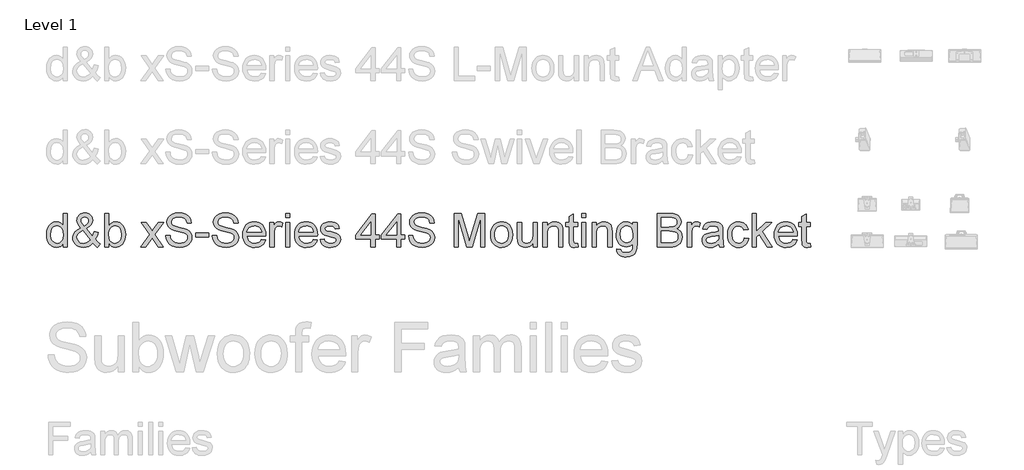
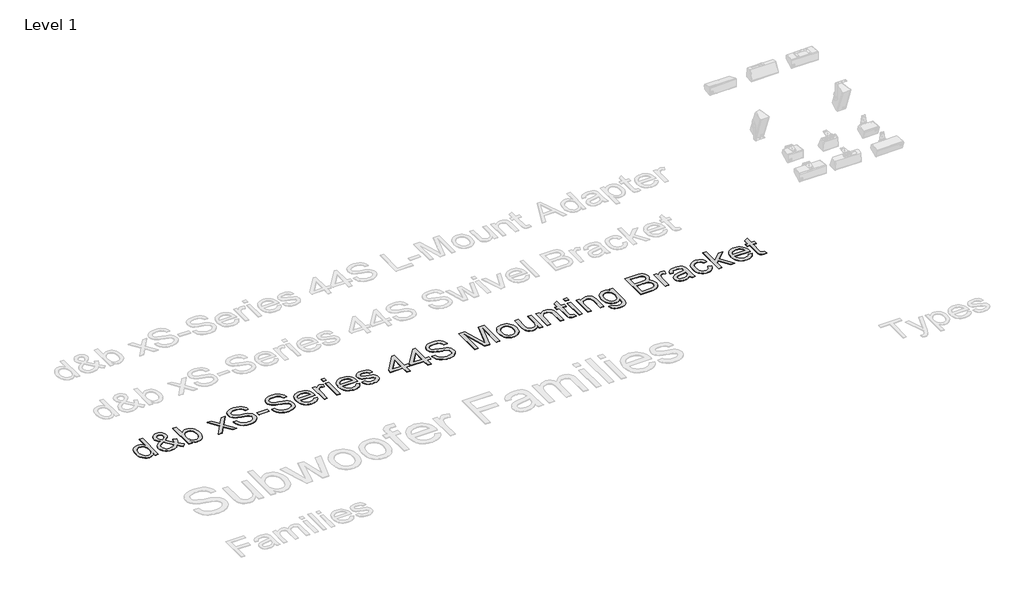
# One storey, part 25 of 55: 1 proxy.
"""IFC4 building model written with IfcOpenShell, lengths in millimetres."""

from ifc_helpers import new_model, si_unit, origin, origin_with_axes, place, context, project, spatial, polyline, outline, extrude, element, save

model = new_model("IFC4")

# Units and contexts
model_context = context("Model", 3, world=origin())
ifc_project = project(units=[si_unit("LENGTHUNIT", "METRE", prefix="MILLI")], contexts=[model_context])

# Site, building, storey
site = spatial("IfcSite", under=ifc_project)
building = spatial("IfcBuilding", under=site)
storey = spatial("IfcBuildingStorey", under=building, Name="Level 1", Elevation=0.0)

# Proxy
placement = place(None, origin())
element("IfcBuildingElementProxy", 1, Name="400mm Arial", ObjectType="400mm Arial", at=placement, inside=storey, context=model_context, shape_type="SweptSolid", body=[
    extrude(outline(polyline([(-20879.8211974, -10648.6945164), (-20879.8211974, -10601.3113154), (-20894.8491769, -10624.7883181), (-20913.0532043, -10641.5576057), (-20934.4332796, -10651.6191783), (-20958.9894028, -10654.9730358), (-20991.4611202, -10650.1169935), (-21021.1859854, -10635.5488665), (-21046.3491139, -10612.2864616), (-21065.1356211, -10581.3475858), (-21076.8342686, -10543.9830379), (-21080.7338177, -10501.4436165), (-21077.1408369, -10459.4314926), (-21066.3618944, -10421.4905962), (-21048.4092531, -10389.7791682), (-21023.2951755, -10366.4554497), (-20992.9203855, -10352.1080519), (-20959.1856065, -10347.325586), (-20934.6110892, -10350.7468885), (-20912.8815261, -10361.0107962), (-20894.4629008, -10376.7438829), (-20879.8211974, -10396.5727224), (-20879.8211974, -10246.8692758), (-20829.5930424, -10246.8692758), (-20829.5930424, -10648.6945164), (-20879.8211974, -10648.6945164)]), holes=[polyline([(-21030.5056627, -10501.2474128), (-21029.089317, -10525.6042665), (-21024.8402799, -10546.6808392), (-21017.7585515, -10564.4771307), (-21007.8441318, -10578.9931411), (-20983.1469871, -10598.3069458), (-20969.2717046, -10603.135397), (-20954.3786151, -10604.7448807), (-20939.415015, -10603.2089734), (-20925.6225058, -10598.6012514), (-20901.5507606, -10580.1703635), (-20892.0440767, -10566.2613584), (-20885.2535882, -10549.1088603), (-20879.8211974, -10505.0733855), (-20885.3516901, -10456.9298951), (-20892.2648059, -10438.3947739), (-20901.9431681, -10423.5507354), (-20913.6448812, -10412.1770504), (-20926.6280499, -10404.0529896), (-20940.8926743, -10399.1785532), (-20956.4387543, -10397.5537411), (-20971.6261493, -10399.1141738), (-20985.5014319, -10403.7954722), (-20998.064602, -10411.5976362), (-21009.3156597, -10422.5206658), (-21018.586286, -10436.8036843), (-21025.2081619, -10454.6858149), (-21030.5056627, -10501.2474128)])]), origin_with_axes(), (0.0, 0.0, 1.0), 5.0),
    extrude(outline(polyline([(-20523.809528, -10599.0549725), (-20549.3405384, -10623.5191252), (-20577.0788409, -10640.99352), (-20607.0734862, -10651.4781569), (-20639.3735254, -10654.9730358), (-20668.6814577, -10652.3855991), (-20694.8010793, -10644.623289), (-20717.7323904, -10631.6861055), (-20737.4753908, -10613.5740486), (-20750.308341, -10596.2038871), (-20759.4747341, -10577.8404442), (-20764.9745699, -10558.4837198), (-20766.8078485, -10538.1337141), (-20760.9094739, -10502.9396699), (-20743.2143499, -10471.3263438), (-20713.796053, -10443.3182613), (-20672.7281596, -10418.9399477), (-20694.6416638, -10390.5885086), (-20707.7995765, -10368.1231814), (-20714.3846642, -10348.9442668), (-20716.5796934, -10330.4520651), (-20714.8506481, -10312.8979626), (-20709.6635119, -10296.5333452), (-20701.018285, -10281.3582129), (-20688.9149674, -10267.3725657), (-20674.1935562, -10255.6555241), (-20657.6940487, -10247.2862088), (-20639.4164449, -10242.2646195), (-20619.3607448, -10240.5907564), (-20600.212487, -10242.1910431), (-20582.8913764, -10246.9919032), (-20567.397413, -10254.9933366), (-20553.7305969, -10266.1953433), (-20542.5715097, -10279.6414302), (-20534.6007332, -10294.3751041), (-20529.8182672, -10310.396365), (-20528.2241119, -10327.7052129), (-20532.9452642, -10355.68877), (-20547.108721, -10381.563137), (-20570.7144823, -10405.3283139), (-20603.7625482, -10426.9843007), (-20531.069066, -10517.5323224), (-20518.6837055, -10491.6579554), (-20509.3885538, -10461.9085647), (-20459.1603987, -10472.7978718), (-20474.6114425, -10519.3226815), (-20494.6732739, -10555.4977443), (-20466.1256311, -10588.8033276), (-20434.0463211, -10616.3209009), (-20471.7174374, -10654.9730358), (-20497.3465498, -10631.52669), (-20523.809528, -10599.0549725)]), holes=[polyline([(-20557.4584678, -10562.8553842), (-20647.1235727, -10450.9211558), (-20681.3733865, -10472.7733463), (-20702.305872, -10493.0068561), (-20713.0112381, -10512.3329235), (-20716.5796934, -10531.4627873), (-20711.6991256, -10555.1543878), (-20697.0574222, -10579.7289051), (-20686.2784798, -10590.6733944), (-20673.4639236, -10598.4908868), (-20658.6137537, -10603.1813823), (-20641.7279702, -10604.7448807), (-20619.0051256, -10601.8263502), (-20595.5710425, -10593.0707588), (-20574.1480476, -10579.6798541), (-20557.4584678, -10562.8553842)]), polyline([(-20629.1709314, -10395.2973981), (-20602.9041569, -10378.6323438), (-20587.8700461, -10364.1500559), (-20580.8067117, -10350.0601755), (-20578.452267, -10334.5723435), (-20581.5547385, -10317.0243723), (-20590.862153, -10303.0325938), (-20604.829406, -10293.8723321), (-20621.9113933, -10290.8189115), (-20639.3612626, -10293.8478066), (-20653.6473468, -10302.9344919), (-20663.1754905, -10316.3867102), (-20666.3515384, -10332.5122043), (-20662.0350563, -10350.9063041), (-20648.9875082, -10371.360543), (-20629.1709314, -10395.2973981)])]), origin_with_axes(), (0.0, 0.0, 1.0), 5.0),
    extrude(outline(polyline([(-20333.590011, -10648.6945164), (-20383.8181661, -10648.6945164), (-20383.8181661, -10246.8692758), (-20333.590011, -10246.8692758), (-20333.590011, -10395.8860093), (-20317.0721094, -10374.6408241), (-20298.4204923, -10359.4656918), (-20277.6351595, -10350.3606124), (-20254.7161112, -10347.325586), (-20228.8417442, -10350.0601755), (-20204.3898543, -10358.263944), (-20182.758393, -10371.4218567), (-20165.3453119, -10389.0188788), (-20151.6968898, -10410.883332), (-20141.3594058, -10436.8435381), (-20134.8478945, -10465.8203766), (-20132.6773907, -10496.734727), (-20134.9245365, -10532.4070178), (-20141.6659741, -10563.7873519), (-20152.9017034, -10590.8757295), (-20168.6317244, -10613.6721505), (-20187.5132678, -10631.7412878), (-20208.2035643, -10644.6478145), (-20230.702614, -10652.3917305), (-20255.0104168, -10654.9730358), (-20278.6836232, -10651.6437038), (-20299.671291, -10641.6557076), (-20317.9734203, -10625.0090473), (-20333.590011, -10601.7037229), (-20333.590011, -10648.6945164)]), holes=[polyline([(-20333.590011, -10499.0891717), (-20330.1564457, -10540.9786682), (-20319.8557498, -10569.3301073), (-20307.6849872, -10584.8240707), (-20293.5399244, -10595.8911874), (-20277.4205617, -10602.5314574), (-20259.3268989, -10604.7448807), (-20244.3050508, -10603.1139372), (-20230.3377977, -10598.2211067), (-20217.4251396, -10590.0663891), (-20205.5670767, -10578.6497845), (-20195.6526569, -10564.0019498), (-20188.5709285, -10546.1535416), (-20184.3218914, -10525.1045601), (-20182.9055458, -10500.8550053), (-20188.3379366, -10454.8942814), (-20195.1284251, -10437.1010555), (-20204.6351089, -10422.7659205), (-20216.0670419, -10411.735592), (-20228.6332778, -10403.8567859), (-20242.3338164, -10399.1295023), (-20257.1686579, -10397.5537411), (-20272.190506, -10399.1846846), (-20286.1577591, -10404.0775151), (-20299.0704171, -10412.2322327), (-20310.9284801, -10423.6488372), (-20320.8428999, -10438.1495192), (-20327.9246283, -10455.556469), (-20332.1736653, -10475.8696865), (-20333.590011, -10499.0891717)])]), origin_with_axes(), (0.0, 0.0, 1.0), 5.0),
    extrude(outline(polyline([(-19950.6003285, -10648.6945164), (-19843.2768878, -10500.2663941), (-19944.3218092, -10353.6041054), (-19884.0872638, -10353.6041054), (-19835.3306367, -10424.3355503), (-19812.4729021, -10457.5920827), (-19792.6563253, -10430.3197641), (-19737.1306695, -10353.6041054), (-19676.6999204, -10353.6041054), (-19782.8461387, -10500.364496), (-19680.623995, -10648.6945164), (-19740.9566422, -10648.6945164), (-19802.5646137, -10559.4218189), (-19813.7482263, -10543.0388074), (-19890.1695795, -10648.6945164), (-19950.6003285, -10648.6945164)])), origin_with_axes(), (0.0, 0.0, 1.0), 5.0),
    extrude(outline(polyline([(-19649.2313981, -10510.56709), (-19599.003243, -10510.56709), (-19593.2397584, -10538.4402825), (-19582.8164352, -10560.844296), (-19566.556051, -10578.6252591), (-19543.2813835, -10592.6293004), (-19514.8318425, -10601.7159856), (-19483.0468381, -10604.7448807), (-19455.063281, -10602.4517496), (-19430.5623402, -10595.5723563), (-19410.7089752, -10584.6830493), (-19396.6681457, -10570.3601769), (-19388.3172244, -10553.9158517), (-19385.533584, -10536.6621862), (-19387.6182486, -10519.849979), (-19393.8722425, -10505.3186402), (-19406.5764341, -10492.9210169), (-19428.0116917, -10482.5099565), (-19501.1466323, -10463.3310418), (-19549.1552327, -10450.639113), (-19579.8733793, -10438.5603208), (-19604.8770922, -10421.6622745), (-19622.5967416, -10401.1835101), (-19633.1549549, -10377.565486), (-19636.6743593, -10351.2496606), (-19632.3210891, -10321.8313637), (-19619.2612782, -10294.3996296), (-19597.8382834, -10271.1494875), (-19568.395461, -10254.2759667), (-19533.054264, -10244.012059), (-19493.9361452, -10240.5907564), (-19451.5561394, -10244.1714745), (-19414.4736342, -10254.9136288), (-19384.013005, -10272.59649), (-19361.4986269, -10296.999329), (-19347.249331, -10326.6015669), (-19341.5839483, -10359.8826247), (-19391.8121033, -10359.8826247), (-19401.0336787, -10329.9125049), (-19409.3968627, -10318.0544419), (-19420.2616443, -10308.2810436), (-19450.3053406, -10295.1844445), (-19491.9741079, -10290.8189115), (-19534.6238939, -10295.1353936), (-19550.9271976, -10300.5309962), (-19563.8827752, -10308.0848398), (-19580.805347, -10327.1411272), (-19586.4462043, -10349.7781326), (-19582.4485532, -10369.0796746), (-19570.4556002, -10384.6042948), (-19542.1041611, -10398.4857088), (-19488.4424407, -10412.6614283), (-19433.0639377, -10426.1259093), (-19399.5621507, -10437.8736077), (-19370.9286687, -10456.0960292), (-19350.9526764, -10478.5858819), (-19339.2172408, -10505.097911), (-19335.3054289, -10535.3868619), (-19339.805852, -10566.3502632), (-19353.3071212, -10595.4742545), (-19375.2574136, -10620.5392811), (-19405.1049061, -10639.3257883), (-19440.9979261, -10651.0612239), (-19481.0848008, -10654.9730358), (-19530.2951491, -10650.7546556), (-19570.7989567, -10638.099515), (-19603.0622077, -10616.958563), (-19627.5508858, -10587.2827487), (-19643.2717098, -10551.1322113), (-19649.2313981, -10510.56709)])), origin_with_axes(), (0.0, 0.0, 1.0), 5.0),
    extrude(outline(polyline([(-19291.3557932, -10529.4026481), (-19291.3557932, -10479.174493), (-19134.3928086, -10479.174493), (-19134.3928086, -10529.4026481), (-19291.3557932, -10529.4026481)])), origin_with_axes(), (0.0, 0.0, 1.0), 5.0),
    extrude(outline(polyline([(-19090.4431729, -10510.56709), (-19040.2150178, -10510.56709), (-19034.4515332, -10538.4402825), (-19024.02821, -10560.844296), (-19007.7678258, -10578.6252591), (-18984.4931583, -10592.6293004), (-18956.0436173, -10601.7159856), (-18924.2586129, -10604.7448807), (-18896.2750558, -10602.4517496), (-18871.774115, -10595.5723563), (-18851.9207499, -10584.6830493), (-18837.8799205, -10570.3601769), (-18829.5289992, -10553.9158517), (-18826.7453587, -10536.6621862), (-18828.8300234, -10519.849979), (-18835.0840173, -10505.3186402), (-18847.7882089, -10492.9210169), (-18869.2234665, -10482.5099565), (-18942.3584071, -10463.3310418), (-18990.3670075, -10450.639113), (-19021.0851541, -10438.5603208), (-19046.088867, -10421.6622745), (-19063.8085164, -10401.1835101), (-19074.3667297, -10377.565486), (-19077.8861341, -10351.2496606), (-19073.5328638, -10321.8313637), (-19060.473053, -10294.3996296), (-19039.0500582, -10271.1494875), (-19009.6072358, -10254.2759667), (-18974.2660388, -10244.012059), (-18935.14792, -10240.5907564), (-18892.7679141, -10244.1714745), (-18855.685409, -10254.9136288), (-18825.2247798, -10272.59649), (-18802.7104017, -10296.999329), (-18788.4611058, -10326.6015669), (-18782.7957231, -10359.8826247), (-18833.0238781, -10359.8826247), (-18842.2454535, -10329.9125049), (-18850.6086375, -10318.0544419), (-18861.4734191, -10308.2810436), (-18891.5171154, -10295.1844445), (-18933.1858827, -10290.8189115), (-18975.8356687, -10295.1353936), (-18992.1389724, -10300.5309962), (-19005.09455, -10308.0848398), (-19022.0171218, -10327.1411272), (-19027.657979, -10349.7781326), (-19023.660328, -10369.0796746), (-19011.667375, -10384.6042948), (-18983.3159359, -10398.4857088), (-18929.6542155, -10412.6614283), (-18874.2757125, -10426.1259093), (-18840.7739255, -10437.8736077), (-18812.1404435, -10456.0960292), (-18792.1644512, -10478.5858819), (-18780.4290156, -10505.097911), (-18776.5172037, -10535.3868619), (-18781.0176267, -10566.3502632), (-18794.518896, -10595.4742545), (-18816.4691883, -10620.5392811), (-18846.3166809, -10639.3257883), (-18882.2097009, -10651.0612239), (-18922.2965756, -10654.9730358), (-18971.5069238, -10650.7546556), (-19012.0107315, -10638.099515), (-19044.2739825, -10616.958563), (-19068.7626606, -10587.2827487), (-19084.4834846, -10551.1322113), (-19090.4431729, -10510.56709)])), origin_with_axes(), (0.0, 0.0, 1.0), 5.0),
    extrude(outline(polyline([(-18500.850962, -10560.795245), (-18451.6038255, -10567.0737644), (-18459.1546035, -10586.7983707), (-18469.3480004, -10604.180795), (-18482.1840164, -10619.2210372), (-18497.6626513, -10631.9190974), (-18515.6244897, -10642.0051955), (-18535.9101161, -10649.2095512), (-18583.4527326, -10654.9730358), (-18614.618469, -10652.4867667), (-18642.3874282, -10645.0279592), (-18666.7596104, -10632.5966135), (-18687.7350155, -10615.1927294), (-18704.602405, -10593.300685), (-18716.6505403, -10567.4048582), (-18723.8794215, -10537.5052491), (-18726.2890486, -10503.6018575), (-18723.8548961, -10468.5488348), (-18716.5524385, -10437.6528785), (-18704.3816758, -10410.9139888), (-18687.342608, -10388.3321657), (-18666.4223852, -10370.3917871), (-18642.6081574, -10357.5772309), (-18615.8999246, -10349.8884972), (-18586.2976867, -10347.325586), (-18557.6488763, -10349.8823658), (-18531.7407868, -10357.5527054), (-18508.5734182, -10370.3366048), (-18488.1467704, -10388.2340638), (-18471.472519, -10410.766836), (-18459.5623394, -10437.4566748), (-18452.4162316, -10468.3035801), (-18450.0341957, -10503.3075519), (-18450.3285013, -10516.8456094), (-18676.0608935, -10516.8456094), (-18673.1515601, -10536.8890467), (-18667.3666157, -10554.4431493), (-18658.7060604, -10569.507917), (-18647.1698942, -10582.0833498), (-18633.3957791, -10591.9977696), (-18618.0213774, -10599.079498), (-18582.4717139, -10604.7448807), (-18555.7389556, -10602.1206558), (-18533.2245775, -10594.2479811), (-18514.9285796, -10580.6363473), (-18500.850962, -10560.795245)]), holes=[polyline([(-18676.0608935, -10466.6174543), (-18500.2623508, -10466.6174543), (-18507.0559049, -10440.0808997), (-18520.3732332, -10421.0981887), (-18534.0707061, -10410.7974929), (-18549.65664, -10403.439853), (-18567.1310348, -10399.025269), (-18586.4938904, -10397.5537411), (-18620.3512967, -10402.2503679), (-18648.3471166, -10416.3402483), (-18667.8080741, -10438.3028034), (-18676.0608935, -10466.6174543)])]), origin_with_axes(), (0.0, 0.0, 1.0), 5.0),
    extrude(outline(polyline([(-18399.8060406, -10648.6945164), (-18399.8060406, -10353.6041054), (-18355.8564049, -10353.6041054), (-18355.8564049, -10397.2594355), (-18339.6205462, -10371.9491542), (-18324.6600117, -10357.0376707), (-18309.6504263, -10349.7536071), (-18293.2674148, -10347.325586), (-18268.2514391, -10351.2006097), (-18242.843056, -10362.8256807), (-18259.618475, -10407.8544369), (-18277.2768108, -10400.128915), (-18294.9351465, -10397.5537411), (-18309.9324692, -10400.0308132), (-18323.3356365, -10407.4620295), (-18334.1636299, -10419.2833042), (-18341.4354307, -10434.9305518), (-18347.5422718, -10462.9876853), (-18349.5778855, -10493.5954673), (-18349.5778855, -10648.6945164), (-18399.8060406, -10648.6945164)])), origin_with_axes(), (0.0, 0.0, 1.0), 5.0),
    extrude(outline(polyline([(-18211.4504591, -10297.0974309), (-18211.4504591, -10246.8692758), (-18161.222304, -10246.8692758), (-18161.222304, -10297.0974309), (-18211.4504591, -10297.0974309)])), origin_with_axes(), (0.0, 0.0, 1.0), 5.0),
    extrude(outline(polyline([(-18211.4504591, -10648.6945164), (-18211.4504591, -10353.6041054), (-18161.222304, -10353.6041054), (-18161.222304, -10648.6945164), (-18211.4504591, -10648.6945164)])), origin_with_axes(), (0.0, 0.0, 1.0), 5.0),
    extrude(outline(polyline([(-17879.2775429, -10560.795245), (-17830.0304065, -10567.0737644), (-17837.5811844, -10586.7983707), (-17847.7745814, -10604.180795), (-17860.6105973, -10619.2210372), (-17876.0892323, -10631.9190974), (-17894.0510707, -10642.0051955), (-17914.336697, -10649.2095512), (-17961.8793136, -10654.9730358), (-17993.0450499, -10652.4867667), (-18020.8140092, -10645.0279592), (-18045.1861914, -10632.5966135), (-18066.1615965, -10615.1927294), (-18083.0289859, -10593.300685), (-18095.0771213, -10567.4048582), (-18102.3060025, -10537.5052491), (-18104.7156295, -10503.6018575), (-18102.281477, -10468.5488348), (-18094.9790194, -10437.6528785), (-18082.8082567, -10410.9139888), (-18065.769189, -10388.3321657), (-18044.8489662, -10370.3917871), (-18021.0347384, -10357.5772309), (-17994.3265055, -10349.8884972), (-17964.7242676, -10347.325586), (-17936.0754573, -10349.8823658), (-17910.1673678, -10357.5527054), (-17886.9999991, -10370.3366048), (-17866.5733513, -10388.2340638), (-17849.8990999, -10410.766836), (-17837.9889203, -10437.4566748), (-17830.8428126, -10468.3035801), (-17828.4607766, -10503.3075519), (-17828.7550822, -10516.8456094), (-18054.4874745, -10516.8456094), (-18051.578141, -10536.8890467), (-18045.7931967, -10554.4431493), (-18037.1326413, -10569.507917), (-18025.5964751, -10582.0833498), (-18011.8223601, -10591.9977696), (-17996.4479584, -10599.079498), (-17960.8982949, -10604.7448807), (-17934.1655366, -10602.1206558), (-17911.6511585, -10594.2479811), (-17893.3551606, -10580.6363473), (-17879.2775429, -10560.795245)]), holes=[polyline([(-18054.4874745, -10466.6174543), (-17878.6889317, -10466.6174543), (-17885.4824859, -10440.0808997), (-17898.7998141, -10421.0981887), (-17912.4972871, -10410.7974929), (-17928.0832209, -10403.439853), (-17945.5576157, -10399.025269), (-17964.9204714, -10397.5537411), (-17998.7778777, -10402.2503679), (-18026.7736975, -10416.3402483), (-18046.234655, -10438.3028034), (-18054.4874745, -10466.6174543)])]), origin_with_axes(), (0.0, 0.0, 1.0), 5.0),
    extrude(outline(polyline([(-17797.0681797, -10560.795245), (-17746.8400246, -10554.5167257), (-17738.918299, -10576.0010342), (-17723.5898825, -10591.7954345), (-17700.7566734, -10601.5075192), (-17670.3205696, -10604.7448807), (-17640.2523479, -10601.7772993), (-17619.1113959, -10592.874555), (-17606.6034081, -10579.9741597), (-17602.4340788, -10565.0136253), (-17606.6279335, -10552.2113318), (-17619.2094978, -10542.4501962), (-17670.9091808, -10528.1273239), (-17746.545719, -10503.5528066), (-17765.6878455, -10491.2042343), (-17779.5569967, -10474.858011), (-17787.9814944, -10455.556469), (-17790.7896603, -10434.3419406), (-17788.5333174, -10414.880983), (-17781.7642887, -10396.9160789), (-17771.0957109, -10381.1584668), (-17757.1407205, -10368.3193852), (-17725.2085633, -10353.4569526), (-17704.3251287, -10348.8584276), (-17681.9946916, -10347.325586), (-17649.302245, -10349.7903953), (-17620.8772295, -10357.1848234), (-17598.0194949, -10368.785369), (-17582.0288908, -10383.8685308), (-17571.4338893, -10403.5502176), (-17564.7629625, -10428.946338), (-17614.9911176, -10435.2248574), (-17621.3309506, -10419.4181943), (-17633.8757267, -10407.5110804), (-17652.748073, -10400.0430759), (-17678.070617, -10397.5537411), (-17706.9125654, -10399.9327113), (-17726.140531, -10407.069622), (-17736.9562617, -10417.3703179), (-17740.5615053, -10429.2406436), (-17734.5772915, -10443.8578215), (-17715.8398352, -10454.9433323), (-17672.5769125, -10465.6364356), (-17598.8533607, -10489.2789852), (-17579.3801404, -10500.5852252), (-17564.6158097, -10516.0607944), (-17555.3083952, -10535.7547439), (-17552.2059237, -10559.7161245), (-17555.8479555, -10584.4868455), (-17566.7740507, -10607.7860386), (-17584.5672766, -10627.7865564), (-17608.8107, -10642.6612517), (-17638.0941069, -10651.8950898), (-17671.0072827, -10654.9730358), (-17698.040478, -10653.4892451), (-17721.6523707, -10649.037873), (-17741.8429609, -10641.6189194), (-17758.6122485, -10631.2323844), (-17772.3097214, -10617.9273189), (-17783.2848676, -10601.7527738), (-17791.5376871, -10582.7087492), (-17797.0681797, -10560.795245)])), origin_with_axes(), (0.0, 0.0, 1.0), 5.0),
    extrude(outline(polyline([(-17188.0517994, -10648.6945164), (-17188.0517994, -10554.5167257), (-17370.1288616, -10554.5167257), (-17370.1288616, -10504.2885706), (-17175.4947607, -10253.1477952), (-17137.8236444, -10253.1477952), (-17137.8236444, -10504.2885706), (-17087.5954893, -10504.2885706), (-17087.5954893, -10554.5167257), (-17137.8236444, -10554.5167257), (-17137.8236444, -10648.6945164), (-17188.0517994, -10648.6945164)]), holes=[polyline([(-17188.0517994, -10504.2885706), (-17188.0517994, -10349.0914196), (-17308.3246864, -10504.2885706), (-17188.0517994, -10504.2885706)])]), origin_with_axes(), (0.0, 0.0, 1.0), 5.0),
    extrude(outline(polyline([(-16880.4043496, -10648.6945164), (-16880.4043496, -10554.5167257), (-17062.4814117, -10554.5167257), (-17062.4814117, -10504.2885706), (-16867.8473108, -10253.1477952), (-16830.1761945, -10253.1477952), (-16830.1761945, -10504.2885706), (-16779.9480394, -10504.2885706), (-16779.9480394, -10554.5167257), (-16830.1761945, -10554.5167257), (-16830.1761945, -10648.6945164), (-16880.4043496, -10648.6945164)]), holes=[polyline([(-16880.4043496, -10504.2885706), (-16880.4043496, -10349.0914196), (-17000.6772366, -10504.2885706), (-16880.4043496, -10504.2885706)])]), origin_with_axes(), (0.0, 0.0, 1.0), 5.0),
    extrude(outline(polyline([(-16735.9984038, -10510.56709), (-16685.7702487, -10510.56709), (-16680.0067641, -10538.4402825), (-16669.5834409, -10560.844296), (-16653.3230567, -10578.6252591), (-16630.0483891, -10592.6293004), (-16601.5988482, -10601.7159856), (-16569.8138438, -10604.7448807), (-16541.8302867, -10602.4517496), (-16517.3293458, -10595.5723563), (-16497.4759808, -10584.6830493), (-16483.4351513, -10570.3601769), (-16475.08423, -10553.9158517), (-16472.3005896, -10536.6621862), (-16474.3852543, -10519.849979), (-16480.6392482, -10505.3186402), (-16493.3434397, -10492.9210169), (-16514.7786973, -10482.5099565), (-16587.913638, -10463.3310418), (-16635.9222383, -10450.639113), (-16666.6403849, -10438.5603208), (-16691.6440979, -10421.6622745), (-16709.3637473, -10401.1835101), (-16719.9219606, -10377.565486), (-16723.441365, -10351.2496606), (-16719.0880947, -10321.8313637), (-16706.0282839, -10294.3996296), (-16684.605289, -10271.1494875), (-16655.1624667, -10254.2759667), (-16619.8212697, -10244.012059), (-16580.7031509, -10240.5907564), (-16538.323145, -10244.1714745), (-16501.2406399, -10254.9136288), (-16470.7800107, -10272.59649), (-16448.2656326, -10296.999329), (-16434.0163367, -10326.6015669), (-16428.3509539, -10359.8826247), (-16478.579109, -10359.8826247), (-16487.8006843, -10329.9125049), (-16496.1638684, -10318.0544419), (-16507.02865, -10308.2810436), (-16537.0723462, -10295.1844445), (-16578.7411136, -10290.8189115), (-16621.3908995, -10295.1353936), (-16637.6942033, -10300.5309962), (-16650.6497809, -10308.0848398), (-16667.5723527, -10327.1411272), (-16673.2132099, -10349.7781326), (-16669.2155589, -10369.0796746), (-16657.2226059, -10384.6042948), (-16628.8711668, -10398.4857088), (-16575.2094464, -10412.6614283), (-16519.8309434, -10426.1259093), (-16486.3291564, -10437.8736077), (-16457.6956744, -10456.0960292), (-16437.7196821, -10478.5858819), (-16425.9842464, -10505.097911), (-16422.0724345, -10535.3868619), (-16426.5728576, -10566.3502632), (-16440.0741268, -10595.4742545), (-16462.0244192, -10620.5392811), (-16491.8719118, -10639.3257883), (-16527.7649318, -10651.0612239), (-16567.8518065, -10654.9730358), (-16617.0621547, -10650.7546556), (-16657.5659624, -10638.099515), (-16689.8292134, -10616.958563), (-16714.3178915, -10587.2827487), (-16730.0387154, -10551.1322113), (-16735.9984038, -10510.56709)])), origin_with_axes(), (0.0, 0.0, 1.0), 5.0),
    extrude(outline(polyline([(-16189.7672173, -10648.6945164), (-16189.7672173, -10246.8692758), (-16103.6337795, -10246.8692758), (-16021.2282126, -10530.0893612), (-16004.5508955, -10589.244786), (-15986.5982541, -10525.1842679), (-15905.762317, -10246.8692758), (-15819.3345736, -10246.8692758), (-15819.3345736, -10648.6945164), (-15869.5627287, -10648.6945164), (-15869.5627287, -10297.0974309), (-15970.5095482, -10648.6945164), (-16038.4941409, -10648.6945164), (-16139.5390622, -10297.0974309), (-16139.5390622, -10648.6945164), (-16189.7672173, -10648.6945164)])), origin_with_axes(), (0.0, 0.0, 1.0), 5.0),
    extrude(outline(polyline([(-15750.2708604, -10501.1493109), (-15747.554665, -10462.932503), (-15739.4060788, -10430.000933), (-15725.8251018, -10402.3546011), (-15706.8117341, -10379.9935072), (-15687.6696076, -10365.7012916), (-15666.5409183, -10355.4925663), (-15643.4256663, -10349.3673311), (-15618.3238515, -10347.325586), (-15590.6131402, -10349.8118551), (-15565.5573106, -10357.2706626), (-15543.1563628, -10369.7020083), (-15523.4102967, -10387.1058924), (-15507.2939997, -10408.8937036), (-15495.7823589, -10434.4768306), (-15488.8753744, -10463.8552736), (-15486.5730463, -10497.0290325), (-15490.6442737, -10547.7722224), (-15502.8579559, -10586.3998319), (-15522.8584737, -10615.3276195), (-15550.2902078, -10636.9713435), (-15582.8722899, -10650.4726127), (-15618.3238515, -10654.9730358), (-15646.439233, -10652.4959637), (-15671.7280544, -10645.0647474), (-15694.1903159, -10632.6793869), (-15713.8260174, -10615.3398822), (-15729.7706362, -10593.3405389), (-15741.1596497, -10566.9756626), (-15747.9930577, -10536.2452532), (-15750.2708604, -10501.1493109)]), holes=[polyline([(-15700.0427053, -10501.051209), (-15698.5895715, -10525.4141942), (-15694.2301698, -10546.5091609), (-15686.9645004, -10564.3361093), (-15676.7925632, -10578.8950392), (-15664.4194655, -10590.2043449), (-15650.5503143, -10598.2824204), (-15635.1851096, -10603.1292656), (-15618.3238515, -10604.7448807), (-15601.5484325, -10603.1200686), (-15586.2445415, -10598.2456322), (-15572.4121785, -10590.1215714), (-15560.0513434, -10578.7478864), (-15549.8794063, -10564.0448693), (-15542.6137369, -10545.9328124), (-15538.2543352, -10524.4117157), (-15536.8012013, -10499.4815792), (-15538.2635323, -10475.8911462), (-15542.6505251, -10455.3480025), (-15549.9621797, -10437.8521479), (-15560.1984962, -10423.4035826), (-15572.6053165, -10412.0942769), (-15586.4284825, -10404.0162014), (-15601.6679941, -10399.1693561), (-15618.3238515, -10397.5537411), (-15635.1851096, -10399.1632248), (-15650.5503143, -10403.991676), (-15664.4194655, -10412.0390946), (-15676.7925632, -10423.3054807), (-15686.9645004, -10437.8214911), (-15694.2301698, -10455.6177826), (-15698.5895715, -10476.6943553), (-15700.0427053, -10501.051209)])]), origin_with_axes(), (0.0, 0.0, 1.0), 5.0),
    extrude(outline(polyline([(-15241.7107903, -10648.6945164), (-15241.7107903, -10597.975852), (-15259.8841608, -10622.9121199), (-15281.0496383, -10640.7237399), (-15305.2072226, -10651.4107118), (-15332.3569139, -10654.9730358), (-15356.8210666, -10652.4714382), (-15379.5929621, -10644.9666455), (-15398.6983004, -10633.684931), (-15412.1627814, -10619.852568), (-15421.2249412, -10603.0526236), (-15427.1233159, -10582.8681648), (-15430.0663718, -10536.1716768), (-15430.0663718, -10353.6041054), (-15379.8382167, -10353.6041054), (-15379.8382167, -10512.5291273), (-15376.7970589, -10563.738301), (-15369.4762072, -10580.8202883), (-15356.9314312, -10593.8065227), (-15339.9965967, -10602.0102912), (-15319.5055695, -10604.7448807), (-15297.83732, -10601.9489776), (-15277.5670221, -10593.5612681), (-15260.8529168, -10580.3543045), (-15249.8532451, -10563.1006389), (-15243.746404, -10539.4703521), (-15241.7107903, -10507.1335247), (-15241.7107903, -10353.6041054), (-15191.4826352, -10353.6041054), (-15191.4826352, -10648.6945164), (-15241.7107903, -10648.6945164)])), origin_with_axes(), (0.0, 0.0, 1.0), 5.0),
    extrude(outline(polyline([(-15122.418922, -10648.6945164), (-15122.418922, -10353.6041054), (-15072.1907669, -10353.6041054), (-15072.1907669, -10394.8068888), (-15054.7408976, -10374.0338188), (-15033.7838866, -10359.1959117), (-15009.3197339, -10350.2931674), (-14981.3484396, -10347.325586), (-14956.5899813, -10349.7168189), (-14933.9161877, -10356.8905179), (-14915.0070531, -10367.9515032), (-14901.5425721, -10382.0045954), (-14892.4068359, -10399.0130063), (-14886.4839357, -10418.9399477), (-14883.8351854, -10467.5003711), (-14883.8351854, -10648.6945164), (-14934.0633404, -10648.6945164), (-14934.0633404, -10474.2693998), (-14935.510343, -10448.2969309), (-14939.8513505, -10429.8292548), (-14947.8589153, -10416.5977657), (-14960.3055894, -10406.333858), (-14976.2594053, -10399.7487703), (-14994.7883951, -10397.5537411), (-15024.206692, -10402.4833598), (-15049.2839813, -10417.272216), (-15059.3057, -10429.3448768), (-15066.4640705, -10445.8443843), (-15070.7590928, -10466.7707384), (-15072.1907669, -10492.1239393), (-15072.1907669, -10648.6945164), (-15122.418922, -10648.6945164)])), origin_with_axes(), (0.0, 0.0, 1.0), 5.0),
    extrude(outline(polyline([(-14708.0366426, -10606.8050199), (-14701.7581232, -10650.1660444), (-14739.3311377, -10654.9730358), (-14763.4396711, -10652.8883712), (-14781.4168379, -10646.6343773), (-14794.1210295, -10636.995869), (-14802.4106371, -10624.7576613), (-14806.9723738, -10603.7393366), (-14808.4929528, -10567.7604775), (-14808.4929528, -10403.8322604), (-14846.1640691, -10403.8322604), (-14846.1640691, -10353.6041054), (-14808.4929528, -10353.6041054), (-14808.4929528, -10281.8916418), (-14758.2647977, -10252.3629803), (-14758.2647977, -10353.6041054), (-14708.0366426, -10353.6041054), (-14708.0366426, -10403.8322604), (-14758.2647977, -10403.8322604), (-14758.2647977, -10566.2889495), (-14755.6160473, -10592.187842), (-14747.0321341, -10601.3603664), (-14729.9133586, -10604.7448807), (-14708.0366426, -10606.8050199)])), origin_with_axes(), (0.0, 0.0, 1.0), 5.0),
    extrude(outline(polyline([(-14657.8084875, -10648.6945164), (-14657.8084875, -10353.6041054), (-14607.5803325, -10353.6041054), (-14607.5803325, -10648.6945164), (-14657.8084875, -10648.6945164)])), origin_with_axes(), (0.0, 0.0, 1.0), 5.0),
    extrude(outline(polyline([(-14657.8084875, -10297.0974309), (-14657.8084875, -10246.8692758), (-14607.5803325, -10246.8692758), (-14607.5803325, -10297.0974309), (-14657.8084875, -10297.0974309)])), origin_with_axes(), (0.0, 0.0, 1.0), 5.0),
    extrude(outline(polyline([(-14532.2380999, -10648.6945164), (-14532.2380999, -10353.6041054), (-14482.0099448, -10353.6041054), (-14482.0099448, -10394.8068888), (-14464.5600755, -10374.0338188), (-14443.6030645, -10359.1959117), (-14419.1389118, -10350.2931674), (-14391.1676174, -10347.325586), (-14366.4091592, -10349.7168189), (-14343.7353655, -10356.8905179), (-14324.826231, -10367.9515032), (-14311.3617499, -10382.0045954), (-14302.2260137, -10399.0130063), (-14296.3031136, -10418.9399477), (-14293.6543632, -10467.5003711), (-14293.6543632, -10648.6945164), (-14343.8825183, -10648.6945164), (-14343.8825183, -10474.2693998), (-14345.3295208, -10448.2969309), (-14349.6705284, -10429.8292548), (-14357.6780931, -10416.5977657), (-14370.1247673, -10406.333858), (-14386.0785832, -10399.7487703), (-14404.607573, -10397.5537411), (-14434.0258699, -10402.4833598), (-14459.1031592, -10417.272216), (-14469.1248779, -10429.3448768), (-14476.2832484, -10445.8443843), (-14480.5782707, -10466.7707384), (-14482.0099448, -10492.1239393), (-14482.0099448, -10648.6945164), (-14532.2380999, -10648.6945164)])), origin_with_axes(), (0.0, 0.0, 1.0), 5.0),
    extrude(outline(polyline([(-14237.1476888, -10673.808594), (-14186.9195337, -10680.0871133), (-14181.3767783, -10695.7834118), (-14170.6346241, -10706.574617), (-14149.5181975, -10714.9623265), (-14121.877997, -10717.7582297), (-14092.3983864, -10714.5944445), (-14070.4726195, -10705.103089), (-14055.2668304, -10689.8972999), (-14045.9471532, -10669.5902138), (-14042.5135879, -10611.0234001), (-14059.2276932, -10627.5045135), (-14077.8793103, -10639.2767374), (-14098.4684393, -10646.3400717), (-14120.9950802, -10648.6945164), (-14148.5341132, -10645.9537956), (-14172.7806024, -10637.731633), (-14193.7345477, -10624.0280287), (-14211.3959491, -10604.8429826), (-14225.4091875, -10581.8258324), (-14235.4186434, -10556.6259158), (-14241.424317, -10529.2432326), (-14243.4262082, -10499.6777829), (-14239.8332274, -10459.1249243), (-14229.0542849, -10421.8339527), (-14211.4695255, -10390.2328893), (-14187.459094, -10366.7497553), (-14157.8445934, -10352.1816283), (-14123.4476268, -10347.325586), (-14099.9583614, -10350.0724382), (-14078.6395998, -10358.3129949), (-14059.4913419, -10372.0472561), (-14042.5135879, -10391.2752217), (-14042.5135879, -10353.6041054), (-13992.2854328, -10353.6041054), (-13992.2854328, -10608.3746498), (-13995.7189981, -10667.1989808), (-14006.0196939, -10705.9369549), (-14023.7638689, -10731.6273809), (-14049.5278712, -10751.3090676), (-14082.7476154, -10763.8170555), (-14122.8590156, -10767.9863847), (-14147.4672554, -10766.5179224), (-14169.5922917, -10762.1125355), (-14189.2341246, -10754.7702241), (-14206.392754, -10744.490988), (-14220.2527082, -10731.2625646), (-14229.9985153, -10715.0726911), (-14235.6301756, -10695.9213676), (-14237.1476888, -10673.808594)]), holes=[polyline([(-14193.1980531, -10496.2442176), (-14187.8392387, -10542.3153062), (-14181.1407207, -10559.9521821), (-14171.7627955, -10573.9899459), (-14160.3615193, -10584.6983777), (-14147.5929484, -10592.3472575), (-14133.4570828, -10596.9365854), (-14117.9539223, -10598.4663614), (-14102.6040461, -10596.9457824), (-14088.5356255, -10592.3840457), (-14075.7486605, -10584.7811511), (-14064.2431511, -10574.1370987), (-14054.7364672, -10560.2372907), (-14047.9459787, -10542.8671291), (-14042.5135879, -10497.7157456), (-14048.1053942, -10454.1707801), (-14055.0951521, -10436.9692312), (-14064.8808132, -10422.8149714), (-14076.6346429, -10411.7631831), (-14089.5289069, -10403.8690486), (-14103.563605, -10399.1325679), (-14118.7387373, -10397.5537411), (-14133.6594179, -10399.1080425), (-14147.4212702, -10403.7709468), (-14171.4684899, -10422.4225639), (-14180.9751738, -10436.3622259), (-14187.7656623, -10453.3123888), (-14193.1980531, -10496.2442176)])]), origin_with_axes(), (0.0, 0.0, 1.0), 5.0),
    extrude(outline(polyline([(-13753.7016962, -10648.6945164), (-13753.7016962, -10246.8692758), (-13600.3684806, -10246.8692758), (-13558.1969412, -10249.8245945), (-13525.2715027, -10258.6905506), (-13500.0347978, -10273.6878733), (-13480.9294595, -10295.0372917), (-13468.8997183, -10320.1513693), (-13464.8898045, -10346.4426692), (-13468.2620561, -10370.6370417), (-13478.378811, -10393.3844118), (-13495.3136455, -10413.2868277), (-13519.1401361, -10428.946338), (-13490.6783324, -10443.8087706), (-13469.647745, -10466.4212506), (-13456.6615106, -10495.2877244), (-13452.3327657, -10528.9121388), (-13455.2880844, -10556.9324841), (-13464.1540405, -10582.9172157), (-13477.3855296, -10605.0146609), (-13493.4374473, -10621.3731469), (-13513.0946086, -10633.2189472), (-13537.1418284, -10641.7783349), (-13566.3639215, -10646.9654711), (-13601.545703, -10648.6945164), (-13753.7016962, -10648.6945164)]), holes=[polyline([(-13703.4735411, -10598.4663614), (-13600.4665825, -10598.4663614), (-13563.1878736, -10596.504324), (-13531.6481239, -10585.5659661), (-13520.0721038, -10576.1359242), (-13510.7524266, -10563.2477917), (-13504.6087973, -10547.4779168), (-13502.5609208, -10529.4026481), (-13504.9644165, -10508.4088489), (-13512.1749036, -10490.3581057), (-13524.7687306, -10476.2436998), (-13543.3222459, -10467.0589127), (-13569.6012831, -10462.0189293), (-13605.3716757, -10460.3389349), (-13703.4735411, -10460.3389349), (-13703.4735411, -10598.4663614)]), polyline([(-13703.4735411, -10410.1107798), (-13611.748297, -10410.1107798), (-13558.1846785, -10405.7942977), (-13539.4349595, -10398.3508187), (-13525.9582157, -10387.2039943), (-13517.8280236, -10372.5255026), (-13515.1179596, -10354.4870222), (-13517.6440826, -10336.9758392), (-13525.2224517, -10321.7209991), (-13537.5097104, -10309.8138852), (-13554.162502, -10302.3458807), (-13579.7180379, -10298.4095434), (-13618.7135294, -10297.0974309), (-13703.4735411, -10297.0974309), (-13703.4735411, -10410.1107798)])]), origin_with_axes(), (0.0, 0.0, 1.0), 5.0),
    extrude(outline(polyline([(-13389.5475719, -10648.6945164), (-13389.5475719, -10353.6041054), (-13345.5979362, -10353.6041054), (-13345.5979362, -10397.2594355), (-13329.3620775, -10371.9491542), (-13314.401543, -10357.0376707), (-13299.3919576, -10349.7536071), (-13283.0089461, -10347.325586), (-13257.9929704, -10351.2006097), (-13232.5845873, -10362.8256807), (-13249.3600063, -10407.8544369), (-13267.018342, -10400.128915), (-13284.6766778, -10397.5537411), (-13299.6740005, -10400.0308132), (-13313.0771678, -10407.4620295), (-13323.9051612, -10419.2833042), (-13331.176962, -10434.9305518), (-13337.2838031, -10462.9876853), (-13339.3194168, -10493.5954673), (-13339.3194168, -10648.6945164), (-13389.5475719, -10648.6945164)])), origin_with_axes(), (0.0, 0.0, 1.0), 5.0),
    extrude(outline(polyline([(-13012.8364088, -10611.0234001), (-13036.8345777, -10631.6002664), (-13061.543985, -10645.0647474), (-13087.5287166, -10652.4959637), (-13115.3528582, -10654.9730358), (-13137.7170178, -10653.4831137), (-13157.3281938, -10649.0133475), (-13174.1863862, -10641.5637371), (-13188.2915951, -10631.1342825), (-13199.4292225, -10618.3871714), (-13207.3846706, -10603.9845913), (-13212.1579395, -10587.9265422), (-13213.7490291, -10570.2130241), (-13211.3455334, -10549.3909032), (-13204.1350463, -10530.4817686), (-13193.0127473, -10514.2949609), (-13178.873816, -10501.6398202), (-13162.2578125, -10492.0748883), (-13143.7042973, -10485.1587068), (-13100.2451709, -10477.6048632), (-13048.8888444, -10469.6586121), (-13013.1307144, -10460.3389349), (-13012.8364088, -10449.1553222), (-13016.2944996, -10426.739046), (-13026.6687719, -10412.0728171), (-13049.869863, -10401.1835101), (-13082.1944277, -10397.5537411), (-13112.1154966, -10399.9694995), (-13133.0111939, -10407.2167748), (-13147.2604899, -10420.6199422), (-13157.2423547, -10441.5033767), (-13207.4705098, -10435.2248574), (-13198.7517065, -10407.7563351), (-13185.7409466, -10386.1739247), (-13167.2242195, -10369.6682858), (-13141.9875146, -10357.4300781), (-13111.1222152, -10349.851709), (-13075.7197045, -10347.325586), (-13041.7641964, -10349.5574034), (-13014.8474971, -10356.2528557), (-12994.5526737, -10366.3205597), (-12980.4627933, -10378.669132), (-12971.1185906, -10393.9362348), (-12965.0608004, -10412.7595302), (-12962.6082538, -10456.7091659), (-12962.6082538, -10519.2000541), (-12960.0576053, -10606.4616634), (-12950.051215, -10648.6945164), (-13000.2793701, -10648.6945164), (-13008.323723, -10631.2323844), (-13012.8364088, -10611.0234001)]), holes=[polyline([(-13012.8364088, -10510.56709), (-13046.5834505, -10518.930274), (-13093.8685496, -10525.9690828), (-13137.0824213, -10534.1115377), (-13148.3273477, -10539.6788185), (-13156.6537435, -10547.3552895), (-13161.8040914, -10556.5523394), (-13163.5208741, -10566.681357), (-13159.7807404, -10581.617366), (-13148.5603396, -10593.8555737), (-13130.1049262, -10602.022554), (-13104.6597548, -10604.7448807), (-13077.6817419, -10601.7405111), (-13053.8429886, -10592.7274022), (-13034.5169211, -10579.4468622), (-13021.0769655, -10563.6401991), (-13015.1172772, -10547.3552895), (-13013.1307144, -10524.7918605), (-13012.8364088, -10510.56709)])]), origin_with_axes(), (0.0, 0.0, 1.0), 5.0),
    extrude(outline(polyline([(-12705.188959, -10541.9596869), (-12654.9608039, -10548.2382063), (-12660.4238516, -10571.9390038), (-12668.9648452, -10592.9113432), (-12680.5837849, -10611.1552245), (-12695.2806706, -10626.6706476), (-12712.4362343, -10639.0529425), (-12731.431208, -10647.8974388), (-12752.2655917, -10653.2041366), (-12774.9393853, -10654.9730358), (-12803.1099491, -10652.5051608), (-12828.3681137, -10645.1015356), (-12850.7138792, -10632.7621604), (-12870.1472456, -10615.487035), (-12885.8772666, -10593.601122), (-12897.1129959, -10567.4293837), (-12903.8544334, -10536.9718202), (-12906.1015793, -10502.2284314), (-12902.2633438, -10457.530769), (-12890.7486374, -10418.7927949), (-12871.373519, -10387.5105626), (-12843.9540476, -10365.1801255), (-12811.1512363, -10351.7892209), (-12775.6260983, -10347.325586), (-12753.3416465, -10348.8584276), (-12733.1847788, -10353.4569526), (-12715.1554954, -10361.1211608), (-12699.2537961, -10371.8510523), (-12685.7494612, -10385.4013725), (-12674.9122708, -10401.5268666), (-12666.7422248, -10420.2275347), (-12661.2393233, -10441.5033767), (-12711.4674784, -10447.7818961), (-12720.5786891, -10425.8683919), (-12734.7666714, -10410.1598308), (-12753.2466103, -10400.7052635), (-12775.2336909, -10397.5537411), (-12792.3003498, -10399.1049768), (-12807.6931456, -10403.758684), (-12821.4120783, -10411.5148628), (-12833.457148, -10422.373513), (-12843.2642688, -10436.5860207), (-12850.2693552, -10454.403772), (-12854.472407, -10475.8267669), (-12855.8734242, -10500.8550053), (-12850.3919825, -10547.9316379), (-12843.5401803, -10565.8689509), (-12833.9476573, -10580.0722616), (-12822.141711, -10590.8665325), (-12808.6496388, -10598.576726), (-12793.4714408, -10603.202842), (-12776.607117, -10604.7448807), (-12750.5978599, -10600.8943825), (-12729.272967, -10589.3428879), (-12713.7606095, -10569.7960912), (-12705.188959, -10541.9596869)])), origin_with_axes(), (0.0, 0.0, 1.0), 5.0),
    extrude(outline(polyline([(-12611.0111682, -10648.6945164), (-12611.0111682, -10246.8692758), (-12560.7830132, -10246.8692758), (-12560.7830132, -10462.7914815), (-12448.1620717, -10353.6041054), (-12378.705951, -10353.6041054), (-12492.7984205, -10464.1649076), (-12372.4274316, -10648.6945164), (-12431.0923471, -10648.6945164), (-12528.8018051, -10499.0891717), (-12560.7830132, -10530.187463), (-12560.7830132, -10648.6945164), (-12611.0111682, -10648.6945164)])), origin_with_axes(), (0.0, 0.0, 1.0), 5.0),
    extrude(outline(polyline([(-12121.8752675, -10560.795245), (-12072.628131, -10567.0737644), (-12080.178909, -10586.7983707), (-12090.3723059, -10604.180795), (-12103.2083219, -10619.2210372), (-12118.6869568, -10631.9190974), (-12136.6487952, -10642.0051955), (-12156.9344216, -10649.2095512), (-12204.4770381, -10654.9730358), (-12235.6427745, -10652.4867667), (-12263.4117337, -10645.0279592), (-12287.7839159, -10632.5966135), (-12308.759321, -10615.1927294), (-12325.6267105, -10593.300685), (-12337.6748458, -10567.4048582), (-12344.903727, -10537.5052491), (-12347.3133541, -10503.6018575), (-12344.8792016, -10468.5488348), (-12337.576744, -10437.6528785), (-12325.4059813, -10410.9139888), (-12308.3669135, -10388.3321657), (-12287.4466907, -10370.3917871), (-12263.6324629, -10357.5772309), (-12236.9242301, -10349.8884972), (-12207.3219922, -10347.325586), (-12178.6731818, -10349.8823658), (-12152.7650923, -10357.5527054), (-12129.5977237, -10370.3366048), (-12109.1710759, -10388.2340638), (-12092.4968245, -10410.766836), (-12080.5866449, -10437.4566748), (-12073.4405371, -10468.3035801), (-12071.0585012, -10503.3075519), (-12071.3528068, -10516.8456094), (-12297.085199, -10516.8456094), (-12294.1758656, -10536.8890467), (-12288.3909212, -10554.4431493), (-12279.7303659, -10569.507917), (-12268.1941997, -10582.0833498), (-12254.4200846, -10591.9977696), (-12239.0456829, -10599.079498), (-12203.4960194, -10604.7448807), (-12176.7632611, -10602.1206558), (-12154.248883, -10594.2479811), (-12135.9528851, -10580.6363473), (-12121.8752675, -10560.795245)]), holes=[polyline([(-12297.085199, -10466.6174543), (-12121.2866563, -10466.6174543), (-12128.0802104, -10440.0808997), (-12141.3975387, -10421.0981887), (-12155.0950116, -10410.7974929), (-12170.6809455, -10403.439853), (-12188.1553402, -10399.025269), (-12207.5181959, -10397.5537411), (-12241.3756022, -10402.2503679), (-12269.3714221, -10416.3402483), (-12288.8323796, -10438.3028034), (-12297.085199, -10466.6174543)])]), origin_with_axes(), (0.0, 0.0, 1.0), 5.0),
    extrude(outline(polyline([(-11914.0955166, -10606.8050199), (-11907.8169972, -10650.1660444), (-11945.3900116, -10654.9730358), (-11969.498545, -10652.8883712), (-11987.4757119, -10646.6343773), (-12000.1799034, -10636.995869), (-12008.4695111, -10624.7576613), (-12013.0312478, -10603.7393366), (-12014.5518267, -10567.7604775), (-12014.5518267, -10403.8322604), (-12052.222943, -10403.8322604), (-12052.222943, -10353.6041054), (-12014.5518267, -10353.6041054), (-12014.5518267, -10281.8916418), (-11964.3236717, -10252.3629803), (-11964.3236717, -10353.6041054), (-11914.0955166, -10353.6041054), (-11914.0955166, -10403.8322604), (-11964.3236717, -10403.8322604), (-11964.3236717, -10566.2889495), (-11961.6749213, -10592.187842), (-11953.0910081, -10601.3603664), (-11935.9722326, -10604.7448807), (-11914.0955166, -10606.8050199)])), origin_with_axes(), (0.0, 0.0, 1.0), 5.0),
])

save(model, "model.ifc")
